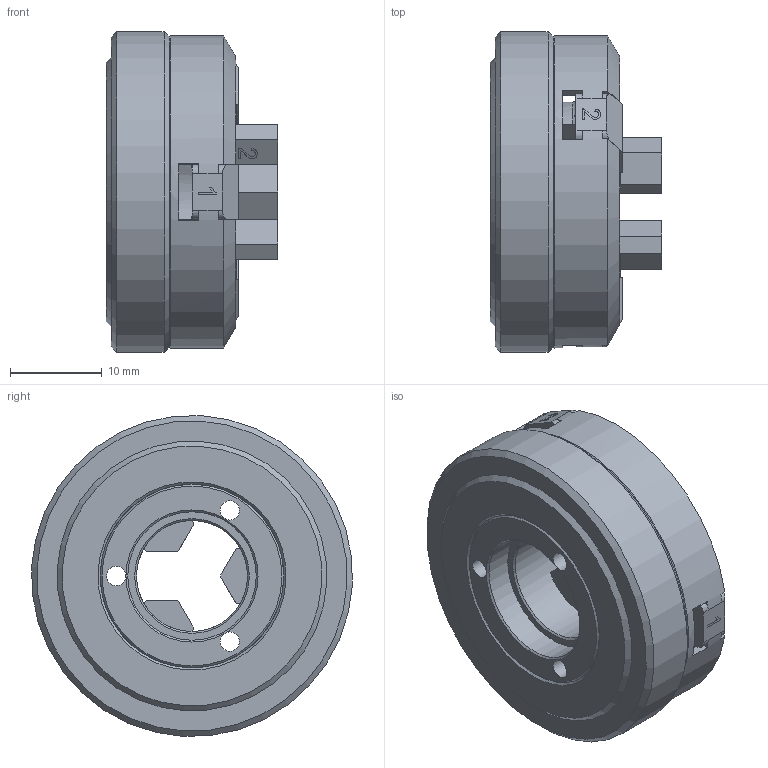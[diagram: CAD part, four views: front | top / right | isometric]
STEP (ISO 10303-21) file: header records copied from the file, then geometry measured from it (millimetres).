
FILE_DESCRIPTION(/* description */ (''),/* implementation_level */ '2;1');
FILE_NAME(/* name */ 'D:\03 Projekte\Futtervariationen\(2) Dateien für Webseite\DBF34\DBF34_00-00 Dreibackenfutter DBF34.iam.stp',/* time_stamp */ '2022-01-27T15:16:19+01:00',/* author */ ('D. Pustolla'),/* organization */ (''),/* preprocessor_version */ 'ST-DEVELOPER v15.2',/* originating_system */ 'Autodesk Inventor 2014',/* authorisation */ '');
FILE_SCHEMA (('AUTOMOTIVE_DESIGN { 1 0 10303 214 3 1 1 }'));
Length unit declared in the file: millimetre
Products named in the file (6): DBF34_00-10 Futterkörper; DBF34_00-11 Spannring; DBF34_00-13 Spannbacken 1; DBF34_00-14 Spannbacken 2; DBF34_00-15 Spannbacken 3; DBF34_00-00 Dreibackenfutter DBF34
Bounding box: 18.7 x 34.94 x 34.94 mm (x, y, z)
Volume: 10420.3 mm3; surface area: 7814.4 mm2
Topology: 5 solids, 5 shells, 242 faces, 672 edges, 440 vertices
Faces by surface type: plane 142, bspline 50, cylinder 30, cone 17, torus 3
Full cylindrical faces by diameter (mm): 2.1 x3, 4 x3, 12.1 x1, 14 x1, 19.6 x1, 20 x2, 31.7 x1, 32 x1, 34 x1, 35 x1
Entity records: 8311 total; most frequent: CARTESIAN_POINT 2173, ORIENTED_EDGE 1260, DIRECTION 1047, EDGE_CURVE 630, VERTEX_POINT 424, LINE 383, VECTOR 383, AXIS2_PLACEMENT_3D 332
